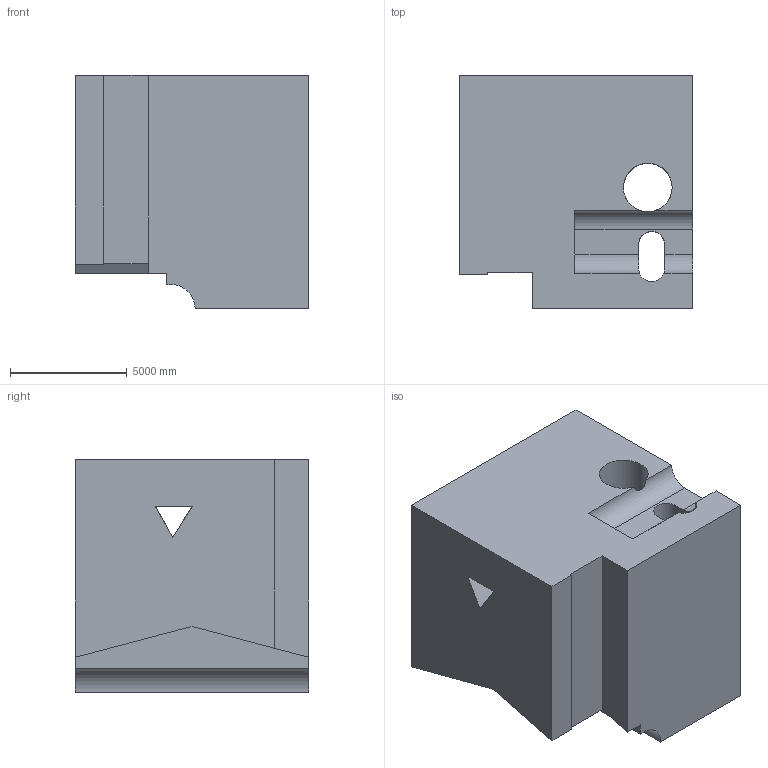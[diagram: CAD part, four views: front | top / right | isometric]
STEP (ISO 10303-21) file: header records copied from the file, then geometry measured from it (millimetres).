
FILE_DESCRIPTION (( 'STEP AP203' ), '1' );
FILE_NAME ('1976.STEP', '2022-08-26T13:43:03', ( 'user' ), ( '' ), 'SwSTEP 2.0', 'SolidWorks 2021', '' );
FILE_SCHEMA (( 'CONFIG_CONTROL_DESIGN' ));
Length unit declared in the file: centimetre
Products named in the file (1): 1976
Bounding box: 10000 x 10000 x 10000 mm (x, y, z)
Volume: 769990124809.8 mm3; surface area: 735286249.2 mm2
Topology: 1 solids, 1 shells, 39 faces, 129 edges, 86 vertices
Faces by surface type: plane 26, cylinder 13
Entity records: 1885 total; most frequent: CARTESIAN_POINT 655, ORIENTED_EDGE 258, DIRECTION 229, EDGE_CURVE 129, LINE 89, VECTOR 89, VERTEX_POINT 86, AXIS2_PLACEMENT_3D 70
